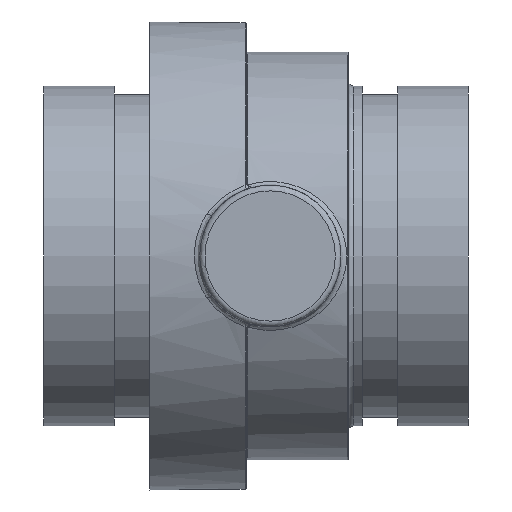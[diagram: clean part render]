
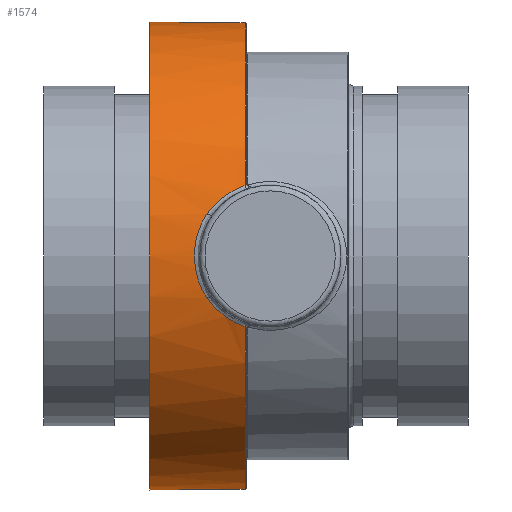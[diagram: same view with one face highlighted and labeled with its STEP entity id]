
A CAD part, front view. The second image highlights one B-rep face of the part: STEP entity #1574.
In plain terms, the highlighted cylindrical face has radius 52.451 mm (diameter 104.902 mm), a full revolution.
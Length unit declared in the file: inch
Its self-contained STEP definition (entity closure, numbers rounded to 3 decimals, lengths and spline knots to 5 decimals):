
#84=B_SPLINE_CURVE_WITH_KNOTS('',3,(#2880,#2881,#2882,#2883),
 .UNSPECIFIED.,.F.,.F.,(4,4),(-1.09555,0.),.UNSPECIFIED.);
#86=B_SPLINE_CURVE_WITH_KNOTS('',3,(#2922,#2923,#2924,#2925,#2926),
 .UNSPECIFIED.,.F.,.F.,(4,1,4),(-2.07006,-1.47861,-1.03498),
 .UNSPECIFIED.);
#87=B_SPLINE_CURVE_WITH_KNOTS('',3,(#2927,#2928,#2929,#2930,#2931),
 .UNSPECIFIED.,.F.,.F.,(4,1,4),(-1.03498,-0.88717,0.),
 .UNSPECIFIED.);
#91=B_SPLINE_CURVE_WITH_KNOTS('',3,(#2970,#2971,#2972,#2973),
 .UNSPECIFIED.,.F.,.F.,(4,4),(-4.27073,-3.17517),
 .UNSPECIFIED.);
#96=B_SPLINE_CURVE_WITH_KNOTS('',3,(#3080,#3081,#3082,#3083,#3084),
 .UNSPECIFIED.,.F.,.F.,(4,1,4),(0.,0.1394,0.24394),
 .UNSPECIFIED.);
#97=B_SPLINE_CURVE_WITH_KNOTS('',3,(#3088,#3089,#3090,#3091,#3092),
 .UNSPECIFIED.,.F.,.F.,(4,1,4),(0.,0.1394,0.24395),
 .UNSPECIFIED.);
#205=FACE_OUTER_BOUND('',#301,.T.);
#301=EDGE_LOOP('',(#1202,#1203,#1204,#1205,#1206,#1207,#1208,#1209,#1210,
#1211,#1212,#1213,#1214,#1215,#1216));
#404=LINE('',#3078,#468);
#405=LINE('',#3094,#469);
#406=LINE('',#3097,#470);
#468=VECTOR('',#2108,0.3937);
#469=VECTOR('',#2111,0.3937);
#470=VECTOR('',#2114,2.065);
#542=CIRCLE('',#1738,2.065);
#543=CIRCLE('',#1739,2.065);
#544=CIRCLE('',#1740,2.065);
#545=CIRCLE('',#1741,2.065);
#546=CIRCLE('',#1742,2.065);
#671=VERTEX_POINT('',#2845);
#673=VERTEX_POINT('',#2878);
#675=VERTEX_POINT('',#2919);
#676=VERTEX_POINT('',#2921);
#679=VERTEX_POINT('',#2968);
#697=VERTEX_POINT('',#3075);
#698=VERTEX_POINT('',#3077);
#699=VERTEX_POINT('',#3079);
#700=VERTEX_POINT('',#3085);
#701=VERTEX_POINT('',#3087);
#702=VERTEX_POINT('',#3093);
#703=VERTEX_POINT('',#3096);
#704=VERTEX_POINT('',#3098);
#847=EDGE_CURVE('',#673,#671,#84,.T.);
#850=EDGE_CURVE('',#675,#676,#86,.T.);
#851=EDGE_CURVE('',#676,#673,#87,.T.);
#856=EDGE_CURVE('',#679,#675,#91,.T.);
#885=EDGE_CURVE('',#697,#679,#542,.T.);
#886=EDGE_CURVE('',#698,#697,#404,.T.);
#887=EDGE_CURVE('',#699,#698,#96,.T.);
#888=EDGE_CURVE('',#700,#699,#543,.T.);
#889=EDGE_CURVE('',#701,#700,#97,.T.);
#890=EDGE_CURVE('',#702,#701,#405,.T.);
#891=EDGE_CURVE('',#671,#702,#544,.T.);
#892=EDGE_CURVE('',#676,#703,#406,.T.);
#893=EDGE_CURVE('',#703,#704,#545,.T.);
#894=EDGE_CURVE('',#704,#703,#546,.T.);
#1202=ORIENTED_EDGE('',*,*,#856,.F.);
#1203=ORIENTED_EDGE('',*,*,#885,.F.);
#1204=ORIENTED_EDGE('',*,*,#886,.F.);
#1205=ORIENTED_EDGE('',*,*,#887,.F.);
#1206=ORIENTED_EDGE('',*,*,#888,.F.);
#1207=ORIENTED_EDGE('',*,*,#889,.F.);
#1208=ORIENTED_EDGE('',*,*,#890,.F.);
#1209=ORIENTED_EDGE('',*,*,#891,.F.);
#1210=ORIENTED_EDGE('',*,*,#847,.F.);
#1211=ORIENTED_EDGE('',*,*,#851,.F.);
#1212=ORIENTED_EDGE('',*,*,#892,.T.);
#1213=ORIENTED_EDGE('',*,*,#893,.T.);
#1214=ORIENTED_EDGE('',*,*,#894,.T.);
#1215=ORIENTED_EDGE('',*,*,#892,.F.);
#1216=ORIENTED_EDGE('',*,*,#850,.F.);
#1417=CYLINDRICAL_SURFACE('',#1737,2.065);
#1574=ADVANCED_FACE('',(#205),#1417,.T.);
#1737=AXIS2_PLACEMENT_3D('',#3074,#2104,#2105);
#1738=AXIS2_PLACEMENT_3D('',#3076,#2106,#2107);
#1739=AXIS2_PLACEMENT_3D('',#3086,#2109,#2110);
#1740=AXIS2_PLACEMENT_3D('',#3095,#2112,#2113);
#1741=AXIS2_PLACEMENT_3D('',#3099,#2115,#2116);
#1742=AXIS2_PLACEMENT_3D('',#3100,#2117,#2118);
#2104=DIRECTION('center_axis',(1.,0.,0.));
#2105=DIRECTION('ref_axis',(0.,1.,0.));
#2106=DIRECTION('center_axis',(1.,0.,0.));
#2107=DIRECTION('ref_axis',(0.,-1.,0.));
#2108=DIRECTION('',(1.,0.,0.));
#2109=DIRECTION('center_axis',(1.,0.,0.));
#2110=DIRECTION('ref_axis',(0.,1.,0.));
#2111=DIRECTION('',(-1.,0.,0.));
#2112=DIRECTION('center_axis',(1.,0.,0.));
#2113=DIRECTION('ref_axis',(0.,-1.,0.));
#2114=DIRECTION('',(-1.,0.,0.));
#2115=DIRECTION('center_axis',(1.,0.,0.));
#2116=DIRECTION('ref_axis',(0.,0.,1.));
#2117=DIRECTION('center_axis',(1.,0.,0.));
#2118=DIRECTION('ref_axis',(0.,0.,1.));
#2845=CARTESIAN_POINT('',(-0.222,-1.96898,-0.62238));
#2878=CARTESIAN_POINT('',(-0.5557,-2.03083,-0.37412));
#2880=CARTESIAN_POINT('Ctrl Pts',(-0.5557,-2.03083,-0.37412));
#2881=CARTESIAN_POINT('Ctrl Pts',(-0.475,-2.00978,
-0.48838));
#2882=CARTESIAN_POINT('Ctrl Pts',(-0.35705,-1.98349,
-0.57646));
#2883=CARTESIAN_POINT('Ctrl Pts',(-0.222,-1.96898,-0.62238));
#2919=CARTESIAN_POINT('',(-0.5557,-2.03083,0.37412));
#2921=CARTESIAN_POINT('',(-0.66867,-2.065,0.));
#2922=CARTESIAN_POINT('Ctrl Pts',(-0.5557,-2.03083,
0.37412));
#2923=CARTESIAN_POINT('Ctrl Pts',(-0.59926,-2.04219,
0.31244));
#2924=CARTESIAN_POINT('Ctrl Pts',(-0.65295,-2.05936,
0.18938));
#2925=CARTESIAN_POINT('Ctrl Pts',(-0.66872,-2.06497,
0.05686));
#2926=CARTESIAN_POINT('Ctrl Pts',(-0.66867,-2.06499,0.));
#2927=CARTESIAN_POINT('Ctrl Pts',(-0.66867,-2.06499,0.));
#2928=CARTESIAN_POINT('Ctrl Pts',(-0.66865,-2.065,
-0.01894));
#2929=CARTESIAN_POINT('Ctrl Pts',(-0.66324,-2.06318,
-0.15163));
#2930=CARTESIAN_POINT('Ctrl Pts',(-0.62104,-2.04787,
-0.28159));
#2931=CARTESIAN_POINT('Ctrl Pts',(-0.5557,-2.03083,
-0.37412));
#2968=CARTESIAN_POINT('',(-0.222,-1.96898,0.62238));
#2970=CARTESIAN_POINT('Ctrl Pts',(-0.222,-1.96898,0.62238));
#2971=CARTESIAN_POINT('Ctrl Pts',(-0.35705,-1.98349,
0.57646));
#2972=CARTESIAN_POINT('Ctrl Pts',(-0.475,-2.00978,
0.48838));
#2973=CARTESIAN_POINT('Ctrl Pts',(-0.5557,-2.03083,
0.37412));
#3074=CARTESIAN_POINT('Origin',(-0.637,0.,0.));
#3075=CARTESIAN_POINT('',(-0.222,1.97977,0.58716));
#3076=CARTESIAN_POINT('Origin',(-0.222,0.,0.));
#3077=CARTESIAN_POINT('',(-0.5,1.97977,0.58716));
#3078=CARTESIAN_POINT('',(-0.637,1.97977,0.58716));
#3079=CARTESIAN_POINT('',(-0.56,1.9965,0.52745));
#3080=CARTESIAN_POINT('Ctrl Pts',(-0.56,1.9965,0.52745));
#3081=CARTESIAN_POINT('Ctrl Pts',(-0.56,1.99185,0.54505));
#3082=CARTESIAN_POINT('Ctrl Pts',(-0.54556,1.98324,0.57563));
#3083=CARTESIAN_POINT('Ctrl Pts',(-0.51372,1.97977,0.58716));
#3084=CARTESIAN_POINT('Ctrl Pts',(-0.5,1.97977,0.58716));
#3085=CARTESIAN_POINT('',(-0.56,1.9965,-0.52745));
#3086=CARTESIAN_POINT('Origin',(-0.56,0.,0.));
#3087=CARTESIAN_POINT('',(-0.5,1.97977,-0.58716));
#3088=CARTESIAN_POINT('Ctrl Pts',(-0.5,1.97977,-0.58716));
#3089=CARTESIAN_POINT('Ctrl Pts',(-0.51829,1.97977,-0.58716));
#3090=CARTESIAN_POINT('Ctrl Pts',(-0.54955,1.98448,-0.57148));
#3091=CARTESIAN_POINT('Ctrl Pts',(-0.56,1.99302,-0.54065));
#3092=CARTESIAN_POINT('Ctrl Pts',(-0.56,1.9965,-0.52745));
#3093=CARTESIAN_POINT('',(-0.222,1.97977,-0.58716));
#3094=CARTESIAN_POINT('',(-0.637,1.97977,-0.58716));
#3095=CARTESIAN_POINT('Origin',(-0.222,0.,0.));
#3096=CARTESIAN_POINT('',(-1.062,-2.065,0.));
#3097=CARTESIAN_POINT('',(-0.637,-2.065,0.));
#3098=CARTESIAN_POINT('',(-1.062,2.065,0.));
#3099=CARTESIAN_POINT('Origin',(-1.062,0.,0.));
#3100=CARTESIAN_POINT('Origin',(-1.062,0.,0.));
